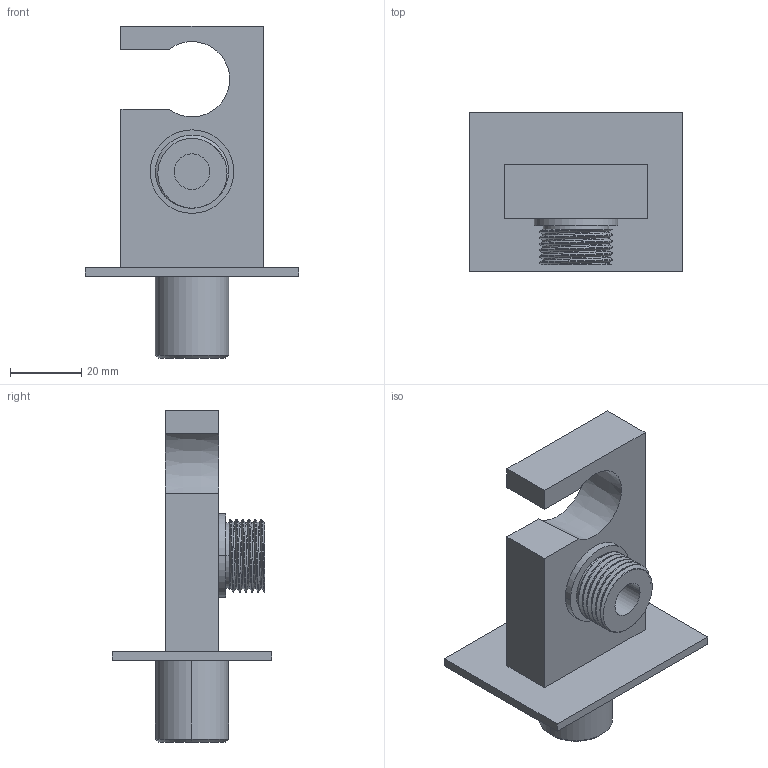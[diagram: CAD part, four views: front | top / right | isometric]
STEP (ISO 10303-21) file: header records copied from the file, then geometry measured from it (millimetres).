
FILE_DESCRIPTION (( 'STEP AP203' ), '1' );
FILE_NAME ('PRE10.STEP', '2025-02-28T08:43:52', ( '' ), ( '' ), 'SwSTEP 2.0', 'SolidWorks 2024', '' );
FILE_SCHEMA (( 'CONFIG_CONTROL_DESIGN' ));
Length unit declared in the file: millimetre
Products named in the file (1): PRE10
Bounding box: 60 x 45 x 93.5 mm (x, y, z)
Volume: 49759.3 mm3; surface area: 16405.7 mm2
Topology: 1 solids, 1 shells, 45 faces, 109 edges, 72 vertices
Faces by surface type: cylinder 20, plane 19, cone 3, bspline 3
Entity records: 2736 total; most frequent: CARTESIAN_POINT 1683, ORIENTED_EDGE 218, DIRECTION 183, EDGE_CURVE 109, VERTEX_POINT 72, AXIS2_PLACEMENT_3D 65, LINE 53, VECTOR 53
